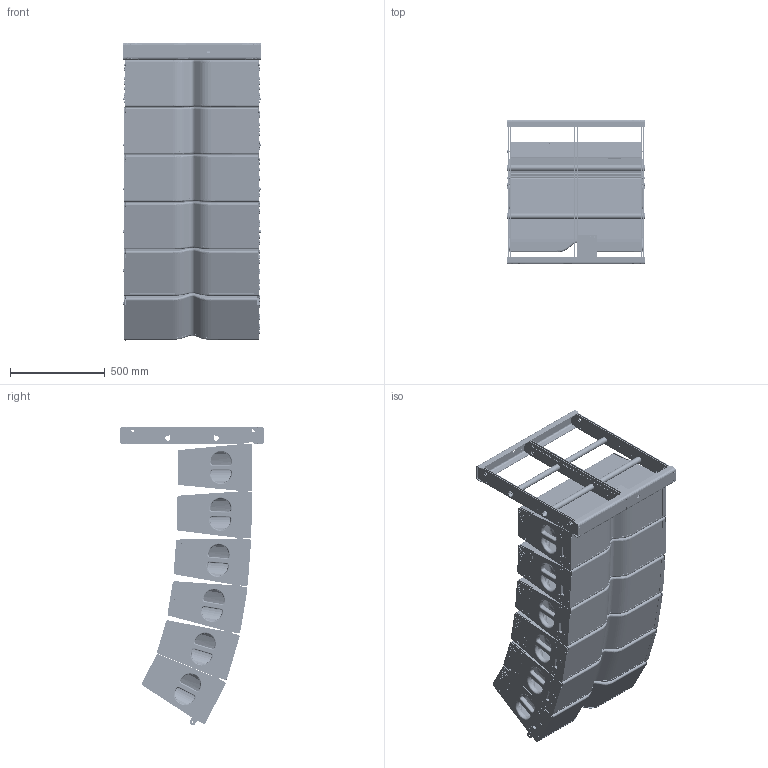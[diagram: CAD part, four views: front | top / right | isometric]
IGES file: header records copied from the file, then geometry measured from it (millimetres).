
Global section: file name: LA28 6 Box ARRAY v2; native system: unknown; preprocessor: unknown; author: unknown; organization: unknown; date: 20230121.233309; units: inch
Bounding box: 726.62 x 762 x 1569.21 mm (x, y, z)
Volume: 347971930.4 mm3; surface area: 9011416.6 mm2
Topology: 21 solids, 21 shells, 3137 faces, 8483 edges, 5700 vertices
Faces by surface type: bspline 3137
